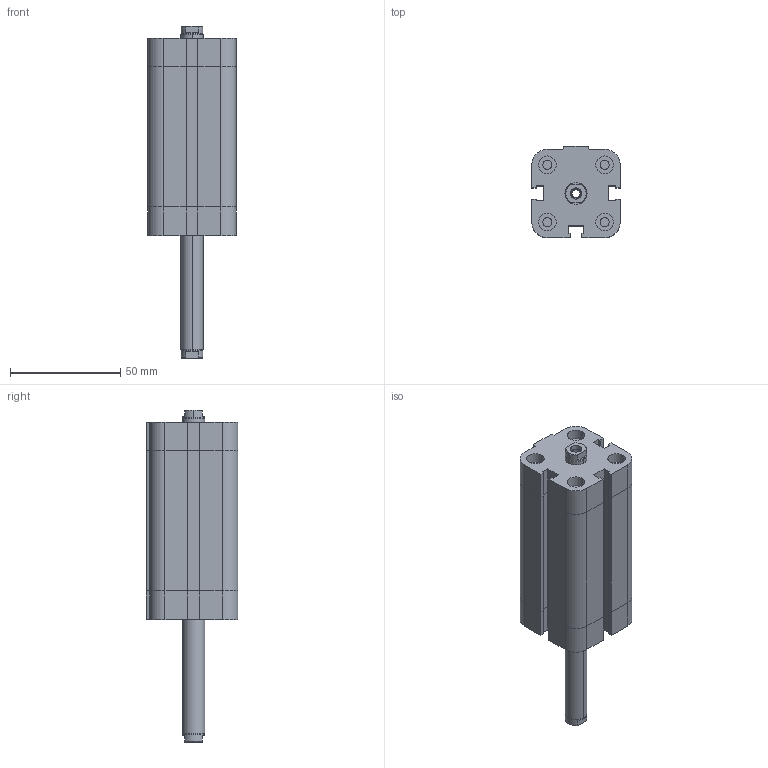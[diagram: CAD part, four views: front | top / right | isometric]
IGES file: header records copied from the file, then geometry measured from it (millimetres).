
Global section: file name: No Iges File Name specified; native system: Autodesk Inventor 2009; preprocessor: AutoDesk Inventor Iges Exporter R2009; author: maffial1; date: 20090420.201203; units: millimetre
Bounding box: 40 x 41.5 x 150.5 mm (x, y, z)
Volume: 131368.6 mm3; surface area: 32122.2 mm2
Topology: 2 solids, 2 shells, 204 faces, 456 edges, 278 vertices
Faces by surface type: plane 114, bspline 44, revolution 20, cylinder 18, cone 8
